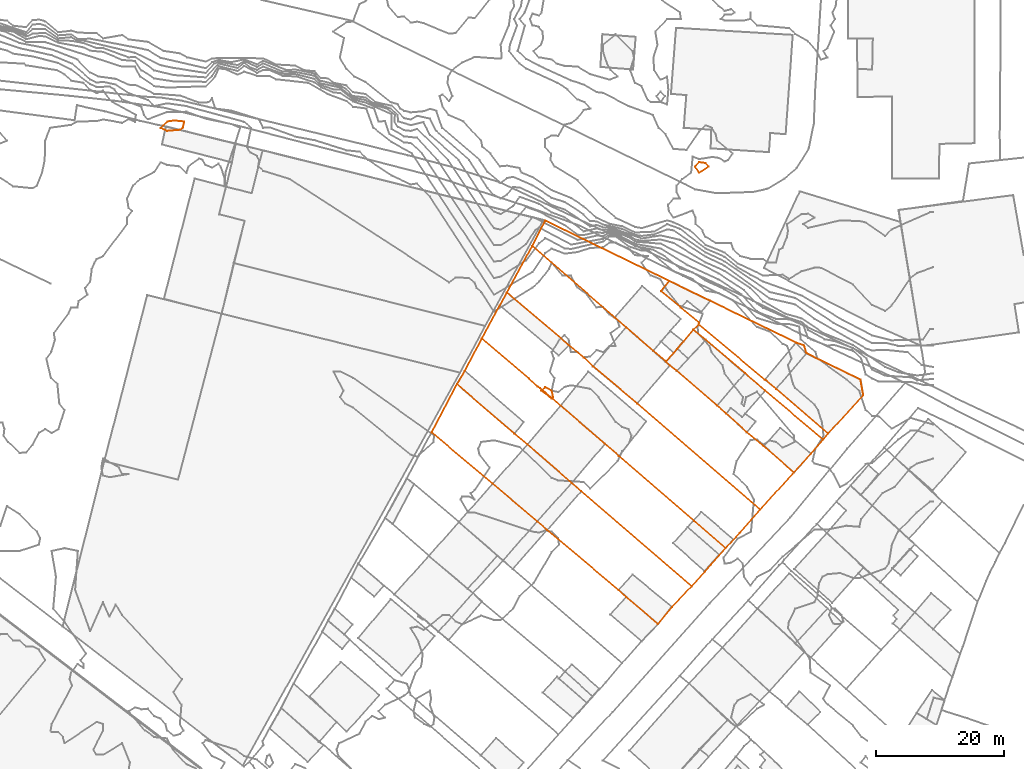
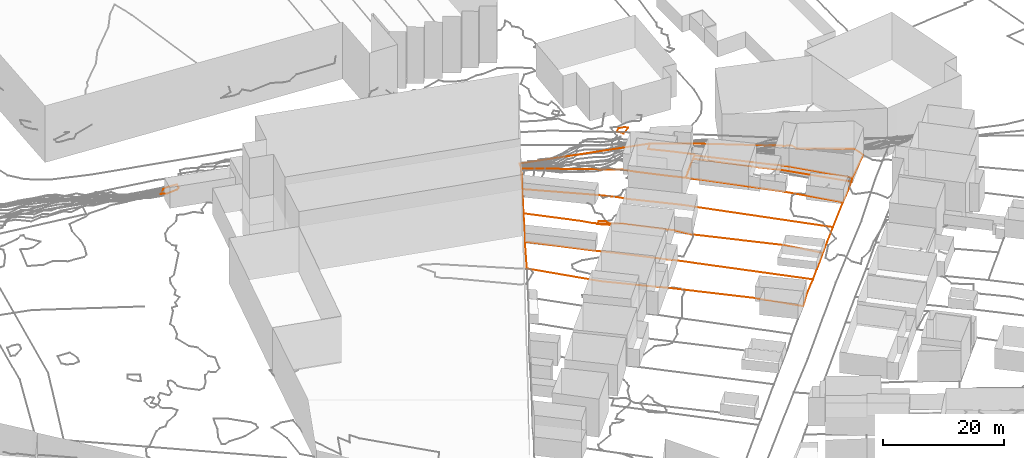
# Not in any storey, part 262 of 419: 11 proxies.
"""IFC2X3 model written with IfcOpenShell, lengths in metres."""

from ifc_helpers import new_model, entity, si_unit, frame, origin_with_axes, place, context, subcontext, project, element, save


model = new_model("IFC2X3")

# Units and contexts
model_context = context("Model", 3, precision=1e-05, world=origin_with_axes())
body_context = subcontext(model_context, "Body", "Model", "MODEL_VIEW")
ifc_project = project(units=[si_unit("AREAUNIT", "SQUARE_METRE"), si_unit("LENGTHUNIT", "METRE")], contexts=[model_context])

# Proxies
proxy_1_placement = place(None, frame((898.3320204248, 303.3976909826, 80.9977975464), z_axis=(0.0, 0.0, 1.0), x_axis=(1.0, 0.0, 0.0)))
element("IfcBuildingElementProxy", 1, at=proxy_1_placement, Name="Cadastre 146", ObjectType="NOTDEFINED", context=body_context, shape_type="GeometricCurveSet", body=[
    entity("IfcGeometricCurveSet", [entity("IfcPolyline", [entity("IfcCartesianPoint", [0.0, 0.0, 0.0]), entity("IfcCartesianPoint", [3.9600000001, 7.5, -0.5507970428]), entity("IfcCartesianPoint", [12.92, -0.1799999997, -0.8478434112]), entity("IfcCartesianPoint", [15.0, -1.9199999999, -0.8733827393]), entity("IfcCartesianPoint", [21.88, -7.8999999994, -1.0237962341]), entity("IfcCartesianPoint", [23.3400000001, -9.1899999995, -1.0071514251]), entity("IfcCartesianPoint", [40.55, -24.0199999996, -1.8290890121]), entity("IfcCartesianPoint", [37.5, -27.25, -1.7550972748]), entity("IfcCartesianPoint", [35.3100000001, -29.8799999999, -1.8275343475]), entity("IfcCartesianPoint", [30.3300000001, -25.7000000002, -1.3006001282]), entity("IfcCartesianPoint", [29.2000000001, -24.6299999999, -1.2352543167]), entity("IfcCartesianPoint", [18.05, -15.2400000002, -0.9708092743]), entity("IfcCartesianPoint", [16.48, -13.8799999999, -1.031460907]), entity("IfcCartesianPoint", [9.52, -8.0099999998, -1.060195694]), entity("IfcCartesianPoint", [0.0, 0.0, 0.0])])]),
])
proxy_2_placement = place(None, frame((902.2920204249, 310.8976909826, 80.4470005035), z_axis=(0.0, 0.0, 1.0), x_axis=(1.0, 0.0, 0.0)))
element("IfcBuildingElementProxy", 2, at=proxy_2_placement, Name="Cadastre 147", ObjectType="NOTDEFINED", context=body_context, shape_type="GeometricCurveSet", body=[
    entity("IfcGeometricCurveSet", [entity("IfcPolyline", [entity("IfcCartesianPoint", [0.0, 0.0, 0.0]), entity("IfcCartesianPoint", [1.22, 2.0600000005, -0.0899445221]), entity("IfcCartesianPoint", [3.88, 7.1500000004, -0.0049200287]), entity("IfcCartesianPoint", [11.23, 0.8700000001, -0.2985854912]), entity("IfcCartesianPoint", [12.6, -0.3700000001, -0.4329908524]), entity("IfcCartesianPoint", [12.99, -0.6200000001, -0.4720890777]), entity("IfcCartesianPoint", [14.71, -2.0700000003, -0.3046166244]), entity("IfcCartesianPoint", [16.1599999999, -3.3499999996, 0.0689469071]), entity("IfcCartesianPoint", [23.0599999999, -9.2599999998, -0.1650017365]), entity("IfcCartesianPoint", [25.2599999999, -11.1600000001, -0.6011525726]), entity("IfcCartesianPoint", [37.0199999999, -21.3200000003, -0.7209121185]), entity("IfcCartesianPoint", [41.9099999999, -25.5800000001, -1.4583074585]), entity("IfcCartesianPoint", [39.63, -28.1499999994, -1.3944405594]), entity("IfcCartesianPoint", [38.6899999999, -29.2000000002, -1.2957895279]), entity("IfcCartesianPoint", [36.59, -31.5199999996, -1.2782919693]), entity("IfcCartesianPoint", [19.38, -16.6899999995, -0.4563543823]), entity("IfcCartesianPoint", [17.9199999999, -15.3999999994, -0.4729991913]), entity("IfcCartesianPoint", [11.0399999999, -9.4199999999, -0.3225856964]), entity("IfcCartesianPoint", [8.96, -7.6799999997, -0.2970463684]), entity("IfcCartesianPoint", [0.0, 0.0, 0.0])])]),
])
proxy_3_placement = place(None, frame((906.1720204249, 318.0476909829, 80.4420804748), z_axis=(0.0, 0.0, 1.0), x_axis=(1.0, 0.0, 0.0)))
element("IfcBuildingElementProxy", 3, at=proxy_3_placement, Name="Cadastre 148", ObjectType="NOTDEFINED", context=body_context, shape_type="GeometricCurveSet", body=[
    entity("IfcGeometricCurveSet", [entity("IfcPolyline", [entity("IfcCartesianPoint", [0.0, 0.0, 0.0]), entity("IfcCartesianPoint", [2.8099999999, 5.1699999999, -0.3107477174]), entity("IfcCartesianPoint", [3.9099999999, 7.1799999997, -0.8341123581]), entity("IfcCartesianPoint", [13.58, -1.04, -0.4320750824]), entity("IfcCartesianPoint", [15.8899999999, -2.9500000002, -0.4626725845]), entity("IfcCartesianPoint", [17.36, -4.3500000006, -0.5411014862]), entity("IfcCartesianPoint", [24.2599999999, -10.1400000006, -0.6181800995]), entity("IfcCartesianPoint", [43.4199999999, -26.7000000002, -1.7780771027]), entity("IfcCartesianPoint", [40.21, -30.3399999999, -1.4643264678]), entity("IfcCartesianPoint", [38.0299999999, -32.7300000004, -1.4533874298]), entity("IfcCartesianPoint", [33.1399999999, -28.4700000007, -0.7159920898]), entity("IfcCartesianPoint", [21.3799999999, -18.3100000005, -0.5962325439]), entity("IfcCartesianPoint", [19.1799999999, -16.4100000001, -0.1600817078]), entity("IfcCartesianPoint", [12.2799999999, -10.5, 0.0738669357]), entity("IfcCartesianPoint", [10.83, -9.2200000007, -0.2996965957]), entity("IfcCartesianPoint", [9.11, -7.7700000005, -0.4671690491]), entity("IfcCartesianPoint", [8.72, -7.5200000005, -0.4280708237]), entity("IfcCartesianPoint", [7.35, -6.2800000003, -0.2936654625]), entity("IfcCartesianPoint", [0.0, 0.0, 0.0])])]),
])
proxy_4_placement = place(None, frame((914.0420204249, 332.4876909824, 77.9993956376), z_axis=(0.0, 0.0, 1.0), x_axis=(1.0, 0.0, 0.0)))
element("IfcBuildingElementProxy", 4, at=proxy_4_placement, Name="Cadastre 149", ObjectType="NOTDEFINED", context=body_context, shape_type="GeometricCurveSet", body=[
    entity("IfcGeometricCurveSet", [entity("IfcPolyline", [entity("IfcCartesianPoint", [0.0, 0.0, 0.0]), entity("IfcCartesianPoint", [2.0199999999, 3.9500000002, -2.1271960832]), entity("IfcCartesianPoint", [21.34, -5.46, 0.8340351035]), entity("IfcCartesianPoint", [20.1, -7.0699999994, 1.1173041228]), entity("IfcCartesianPoint", [23.1899999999, -9.6200000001, 1.0873556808]), entity("IfcCartesianPoint", [26.0499999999, -11.9799999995, 0.9528051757]), entity("IfcCartesianPoint", [25.9299999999, -12.2599999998, 0.9590980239]), entity("IfcCartesianPoint", [25.1399999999, -13.0800000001, 1.0256228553]), entity("IfcCartesianPoint", [23.59, -14.8999999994, 1.4878984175]), entity("IfcCartesianPoint", [22.6, -16.0699999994, 1.4925822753]), entity("IfcCartesianPoint", [22.0599999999, -16.6899999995, 1.5719229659]), entity("IfcCartesianPoint", [20.8899999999, -18.0499999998, 1.7344063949]), entity("IfcCartesianPoint", [18.88, -16.3599999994, 1.7503033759]), entity("IfcCartesianPoint", [14.63, -12.7199999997, 1.8747220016]), entity("IfcCartesianPoint", [12.87, -11.1600000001, 1.9963749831]), entity("IfcCartesianPoint", [0.0, 0.0, 0.0])])]),
])
proxy_5_placement = place(None, frame((910.0820204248, 325.2276909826, 79.6079681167), z_axis=(0.0, 0.0, 1.0), x_axis=(1.0, 0.0, 0.0)))
element("IfcBuildingElementProxy", 5, at=proxy_5_placement, Name="Cadastre 161", ObjectType="NOTDEFINED", context=body_context, shape_type="GeometricCurveSet", body=[
    entity("IfcGeometricCurveSet", [entity("IfcPolyline", [entity("IfcCartesianPoint", [0.0, 0.0, 0.0]), entity("IfcCartesianPoint", [3.9600000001, 7.2599999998, -1.6085724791]), entity("IfcCartesianPoint", [16.8300000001, -3.9000000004, 0.387802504]), entity("IfcCartesianPoint", [18.5900000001, -5.46, 0.2661495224]), entity("IfcCartesianPoint", [22.8400000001, -9.0999999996, 0.1417308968]), entity("IfcCartesianPoint", [24.85, -10.79, 0.1258339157]), entity("IfcCartesianPoint", [25.4400000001, -11.4100000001, 0.1325190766]), entity("IfcCartesianPoint", [26.49, -12.2000000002, 0.0812309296]), entity("IfcCartesianPoint", [32.79, -17.6600000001, -0.2396442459]), entity("IfcCartesianPoint", [34.2000000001, -18.8899999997, -0.3063977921]), entity("IfcCartesianPoint", [37.4400000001, -21.8099999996, -0.4457906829]), entity("IfcCartesianPoint", [40.0600000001, -23.9699999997, -0.7811291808]), entity("IfcCartesianPoint", [44.76, -28.0899999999, -1.2886190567]), entity("IfcCartesianPoint", [39.51, -33.8799999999, -0.9439647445]), entity("IfcCartesianPoint", [20.35, -17.3200000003, 0.2159322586]), entity("IfcCartesianPoint", [13.4500000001, -11.5300000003, 0.2930108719]), entity("IfcCartesianPoint", [11.98, -10.1299999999, 0.3714397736]), entity("IfcCartesianPoint", [9.67, -8.2199999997, 0.4020372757]), entity("IfcCartesianPoint", [0.0, 0.0, 0.0])])]),
])
proxy_6_placement = place(None, frame((934.9320204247, 314.4376909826, 79.7338020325), z_axis=(0.0, 0.0, 1.0), x_axis=(1.0, 0.0, 0.0)))
element("IfcBuildingElementProxy", 6, at=proxy_6_placement, Name="Cadastre 163", ObjectType="NOTDEFINED", context=body_context, shape_type="GeometricCurveSet", body=[
    entity("IfcGeometricCurveSet", [entity("IfcPolyline", [entity("IfcCartesianPoint", [19.91, -17.2999999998, -1.4144529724]), entity("IfcCartesianPoint", [15.2100000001, -13.1799999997, -0.9069630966]), entity("IfcCartesianPoint", [12.5900000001, -11.0199999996, -0.5716245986]), entity("IfcCartesianPoint", [9.3500000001, -8.0999999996, -0.4322317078]), entity("IfcCartesianPoint", [7.9400000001, -6.8700000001, -0.3654781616]), entity("IfcCartesianPoint", [1.64, -1.4100000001, -0.0446029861]), entity("IfcCartesianPoint", [0.5900000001, -0.6200000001, 0.0066851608]), entity("IfcCartesianPoint", [0.0, 0.0, 0.0]), entity("IfcCartesianPoint", [1.17, 1.3600000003, -0.162483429]), entity("IfcCartesianPoint", [1.7100000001, 1.9800000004, -0.2418241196]), entity("IfcCartesianPoint", [2.7000000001, 3.1500000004, -0.2465079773]), entity("IfcCartesianPoint", [4.25, 4.9699999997, -0.7087835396]), entity("IfcCartesianPoint", [6.14, 3.4000000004, -0.7434999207]), entity("IfcCartesianPoint", [12.29, -1.8099999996, -1.049562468]), entity("IfcCartesianPoint", [15.4400000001, -4.54, -1.0562026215]), entity("IfcCartesianPoint", [24.4900000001, -12.1799999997, -1.9778563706]), entity("IfcCartesianPoint", [22.5900000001, -14.3399999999, -1.7446838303]), entity("IfcCartesianPoint", [19.91, -17.2999999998, -1.4144529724])])]),
])
proxy_7_placement = place(None, frame((934.1420204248, 325.417690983, 79.1166997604), z_axis=(0.0, 0.0, 1.0), x_axis=(1.0, 0.0, 0.0)))
element("IfcBuildingElementProxy", 7, at=proxy_7_placement, Name="Cadastre 164", ObjectType="NOTDEFINED", context=body_context, shape_type="GeometricCurveSet", body=[
    entity("IfcGeometricCurveSet", [entity("IfcPolyline", [entity("IfcCartesianPoint", [5.83, -5.1900000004, -0.1582060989]), entity("IfcCartesianPoint", [5.95, -4.9100000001, -0.1644989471]), entity("IfcCartesianPoint", [3.09, -2.5500000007, -0.029948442]), entity("IfcCartesianPoint", [0.0, 0.0, 0.0]), entity("IfcCartesianPoint", [1.24, 1.6099999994, -0.2832690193]), entity("IfcCartesianPoint", [7.63, -1.4900000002, -0.64186091]), entity("IfcCartesianPoint", [21.0399999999, -8.0100000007, -1.8502353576]), entity("IfcCartesianPoint", [21.24, -8.0900000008, -1.8877952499]), entity("IfcCartesianPoint", [22.35, -8.4700000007, -1.9588497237]), entity("IfcCartesianPoint", [22.6799999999, -9.6800000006, -1.9794310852]), entity("IfcCartesianPoint", [31.1, -13.8000000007, -2.401698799]), entity("IfcCartesianPoint", [31.5499999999, -16.21, -2.3674504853]), entity("IfcCartesianPoint", [26.03, -22.2300000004, -1.398628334]), entity("IfcCartesianPoint", [17.9299999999, -15.2400000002, -0.5243720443]), entity("IfcCartesianPoint", [16.2899999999, -13.8300000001, -0.4731946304]), entity("IfcCartesianPoint", [16.1899999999, -13.8100000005, -0.4811529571]), entity("IfcCartesianPoint", [5.83, -5.1900000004, -0.1582060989])])]),
])
proxy_8_placement = place(None, frame((939.1820204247, 319.4076909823, 79.0250184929), z_axis=(0.0, 0.0, 1.0), x_axis=(1.0, 0.0, 0.0)))
element("IfcBuildingElementProxy", 8, at=proxy_8_placement, Name="Cadastre 165", ObjectType="NOTDEFINED", context=body_context, shape_type="GeometricCurveSet", body=[
    entity("IfcGeometricCurveSet", [entity("IfcPolyline", [entity("IfcCartesianPoint", [0.0, 0.0, 0.0]), entity("IfcCartesianPoint", [0.79, 0.8200000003, -0.0665248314]), entity("IfcCartesianPoint", [11.15, -7.7999999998, -0.3894716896]), entity("IfcCartesianPoint", [11.25, -7.8199999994, -0.3815133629]), entity("IfcCartesianPoint", [12.89, -9.2299999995, -0.4326907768]), entity("IfcCartesianPoint", [20.9900000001, -16.2199999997, -1.3069470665]), entity("IfcCartesianPoint", [20.2400000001, -17.1499999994, -1.269072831]), entity("IfcCartesianPoint", [11.1900000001, -9.5099999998, -0.3474190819]), entity("IfcCartesianPoint", [8.04, -6.7799999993, -0.3407789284]), entity("IfcCartesianPoint", [1.89, -1.5699999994, -0.0347163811]), entity("IfcCartesianPoint", [0.0, 0.0, 0.0])])]),
])
proxy_9_placement = place(None, frame((856.0465564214, 350.8976909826, 82.0), z_axis=(0.0, 0.0, 1.0), x_axis=(1.0, 0.0, 0.0)))
element("IfcBuildingElementProxy", 9, at=proxy_9_placement, Name="Contour 82.0 m", ObjectType="NOTDEFINED", context=body_context, shape_type="GeometricCurveSet", body=[
    entity("IfcGeometricCurveSet", [entity("IfcPolyline", [entity("IfcCartesianPoint", [3.4898990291, 0.0, 0.0]), entity("IfcCartesianPoint", [3.0454640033, -0.2857220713, 0.0]), entity("IfcCartesianPoint", [1.0454640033, -0.4615452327, 0.0]), entity("IfcCartesianPoint", [0.0, 0.0, 0.0]), entity("IfcCartesianPoint", [1.122400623, 1.0, 0.0]), entity("IfcCartesianPoint", [2.0454640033, 1.1519020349, 0.0]), entity("IfcCartesianPoint", [3.7121730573, 1.0, 0.0]), entity("IfcCartesianPoint", [3.4898990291, 0.0, 0.0])])]),
])
proxy_10_placement = place(None, frame((939.4254385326, 344.8976909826, 69.0), z_axis=(0.0, 0.0, 1.0), x_axis=(1.0, 0.0, 0.0)))
element("IfcBuildingElementProxy", 10, at=proxy_10_placement, Name="Contour 69.0 m", ObjectType="NOTDEFINED", context=body_context, shape_type="GeometricCurveSet", body=[
    entity("IfcGeometricCurveSet", [entity("IfcPolyline", [entity("IfcCartesianPoint", [0.6666068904, -1.0, 0.0]), entity("IfcCartesianPoint", [0.0, 0.0, 0.0]), entity("IfcCartesianPoint", [0.6665818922, 0.6665818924, 0.0]), entity("IfcCartesianPoint", [1.6665818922, 0.5000166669, 0.0]), entity("IfcCartesianPoint", [2.166598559, 0.0, 0.0]), entity("IfcCartesianPoint", [0.6666068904, -1.0, 0.0])])]),
])
proxy_11_placement = place(None, frame((915.4253537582, 309.8976909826, 80.0), z_axis=(0.0, 0.0, 1.0), x_axis=(1.0, 0.0, 0.0)))
element("IfcBuildingElementProxy", 11, at=proxy_11_placement, Name="Contour 80.0 m", ObjectType="NOTDEFINED", context=body_context, shape_type="GeometricCurveSet", body=[
    entity("IfcGeometricCurveSet", [entity("IfcPolyline", [entity("IfcCartesianPoint", [1.6666666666, -1.2353020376, 0.0]), entity("IfcCartesianPoint", [1.8888935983, -1.0, 0.0]), entity("IfcCartesianPoint", [1.6666541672, 0.0, 0.0]), entity("IfcCartesianPoint", [0.6666666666, 0.5714441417, 0.0]), entity("IfcCartesianPoint", [0.0, 0.0, 0.0]), entity("IfcCartesianPoint", [1.6666666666, -1.2353020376, 0.0])])]),
])

save(model, "model.ifc")
